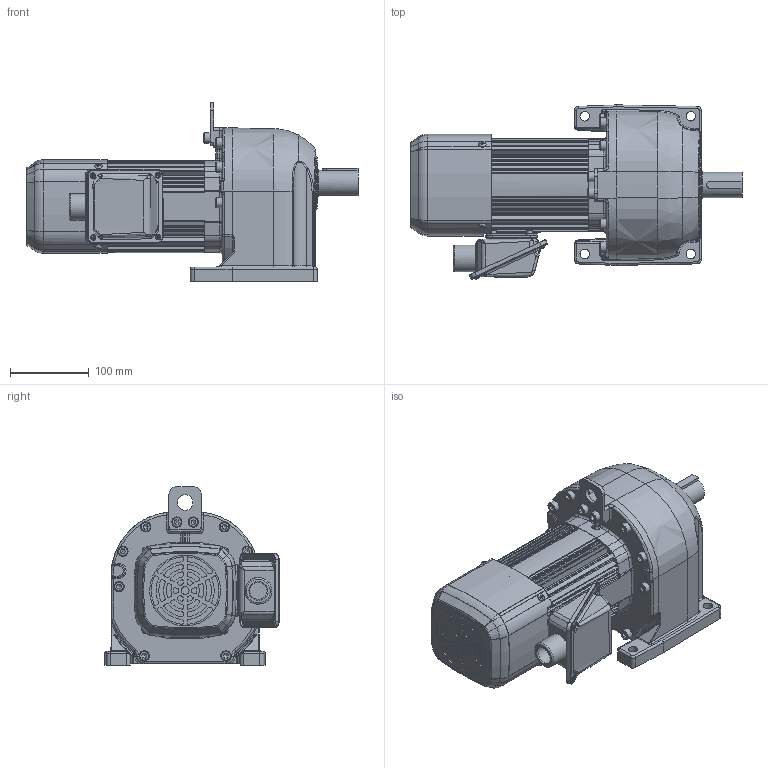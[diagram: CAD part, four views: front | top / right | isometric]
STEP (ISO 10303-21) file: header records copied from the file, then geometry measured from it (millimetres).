
FILE_DESCRIPTION( ( 'Unknown' ), '1' );
FILE_NAME( 'W:/gm/3D-WEB/GV-S/完成品/モータ+減速機/パーツデータ/完成品(GV-S_0.75kw_ブレーキ付_G).stp', 'Unknown', ( 'Unknown' ), ( 'Unknown' ), 'PSStep 11.0', 'Unknown', ' ' );
FILE_SCHEMA( ( 'AUTOMOTIVE_DESIGN { 1 0 10303 214 1 1 1 1 }' ) );
Length unit declared in the file: millimetre
Products named in the file (4): P164377_G¹°½(G32)
Bounding box: 422 x 221.52 x 227 mm (x, y, z)
Volume: 4282412.5 mm3; surface area: 613161 mm2
Topology: 4 solids, 31 shells, 1953 faces, 4876 edges, 3052 vertices
Faces by surface type: cylinder 823, plane 718, bspline 165, torus 153, cone 82, sphere 12
Full cylindrical faces by diameter (mm): 3.3 x4, 3.8 x4, 4 x6, 4.134 x4, 4.2 x4, 4.5 x12, 4.6 x4, 5.8 x4, 6 x4, 6.647 x4, 6.8 x9, 7 x6, 8 x12, 8.2 x1, 8.5 x2, 9 x8, 9.7 x4, 10 x12, 12 x4, 13 x10, 15 x1, 16 x1, 20 x1, 22 x1, 24.117 x2, 32 x1, 34 x2, 34.5 x1, 35 x1, 46 x1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
Entity records: 87126 total; most frequent: CARTESIAN_POINT 26553, DIRECTION 9736, ORIENTED_EDGE 8922, EDGE_CURVE 4461, AXIS2_PLACEMENT_3D 3871, VERTEX_POINT 2928, EDGE_LOOP 2328, FACE_OUTER_BOUND 2122
